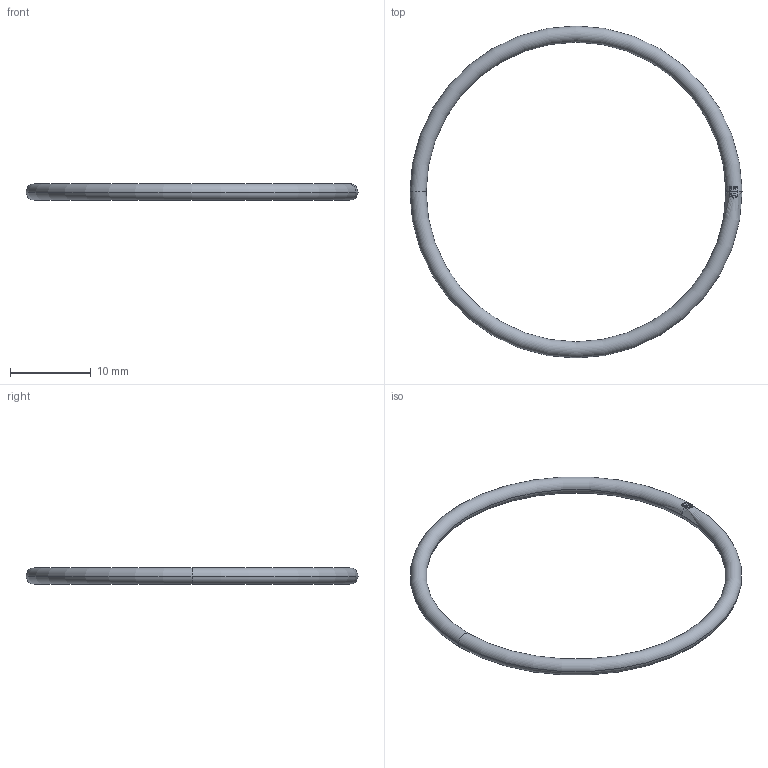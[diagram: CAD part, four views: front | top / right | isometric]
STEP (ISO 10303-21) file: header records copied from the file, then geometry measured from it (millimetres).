
FILE_DESCRIPTION (( 'STEP AP203' ), '1' );
FILE_NAME ('50.340 G-2.STEP', '2007-02-26T10:40:55', ( ' ' ), ( '' ), 'SwSTEP 2.0', 'SolidWorks 2005278', '' );
FILE_SCHEMA (( 'CONFIG_CONTROL_DESIGN' ));
Length unit declared in the file: millimetre
Products named in the file (1): 50.340 G-2
Bounding box: 41 x 41 x 2 mm (x, y, z)
Volume: 384.9 mm3; surface area: 770.1 mm2
Topology: 1 solids, 1 shells, 41 faces, 113 edges, 74 vertices
Faces by surface type: plane 34, torus 7
Entity records: 1551 total; most frequent: CARTESIAN_POINT 549, ORIENTED_EDGE 226, DIRECTION 140, EDGE_CURVE 113, VERTEX_POINT 74, B_SPLINE_CURVE_WITH_KNOTS 68, AXIS2_PLACEMENT_3D 53, EDGE_LOOP 43
